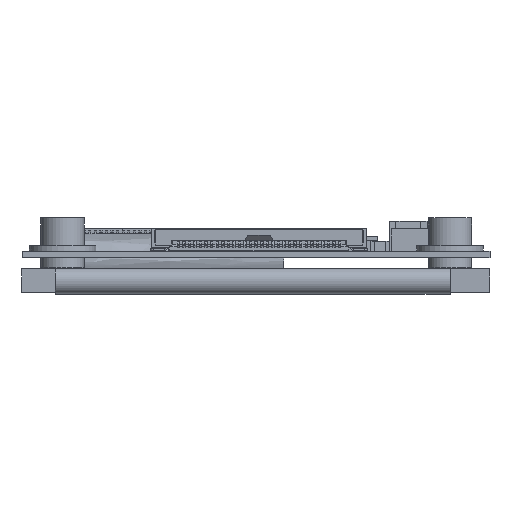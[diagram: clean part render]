
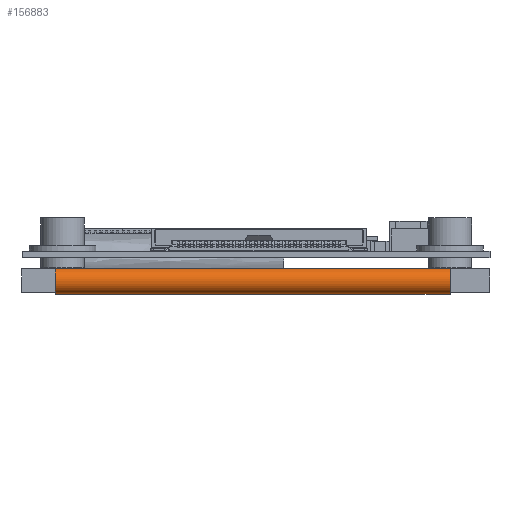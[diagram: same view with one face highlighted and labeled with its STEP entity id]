
A CAD part, front view. The second image highlights one B-rep face of the part: STEP entity #156883.
In plain terms, the highlighted cylindrical face has radius 1.15 mm (diameter 2.3 mm), a partial arc.
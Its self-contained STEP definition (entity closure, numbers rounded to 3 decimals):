
#8848 = ORIENTED_EDGE ( 'NONE', *, *, #31695, .F. ) ;
#18211 = LINE ( 'NONE', #96941, #56747 ) ;
#18982 = ORIENTED_EDGE ( 'NONE', *, *, #160203, .T. ) ;
#22272 = CARTESIAN_POINT ( 'NONE',  ( -11.892, 8.177, 44.814 ) ) ;
#31443 = CARTESIAN_POINT ( 'NONE',  ( 23.558, 8.177, 43.664 ) ) ;
#31695 = EDGE_CURVE ( 'NONE', #83206, #88908, #80534, .T. ) ;
#52945 = DIRECTION ( 'NONE',  ( 1., 0., 0. ) ) ;
#56747 = VECTOR ( 'NONE', #116541, 1000. ) ;
#57820 = AXIS2_PLACEMENT_3D ( 'NONE', #22272, #52945, #85716 ) ;
#59819 = EDGE_CURVE ( 'NONE', #100338, #83206, #135904, .T. ) ;
#62197 = EDGE_CURVE ( 'NONE', #160314, #88908, #140399, .T. ) ;
#76540 = EDGE_LOOP ( 'NONE', ( #95230, #8848, #86825, #18982 ) ) ;
#80534 = LINE ( 'NONE', #82670, #198724 ) ;
#82670 = CARTESIAN_POINT ( 'NONE',  ( -11.892, 8.177, 45.964 ) ) ;
#83206 = VERTEX_POINT ( 'NONE', #120203 ) ;
#85716 = DIRECTION ( 'NONE',  ( 0., 1., 0. ) ) ;
#86825 = ORIENTED_EDGE ( 'NONE', *, *, #59819, .F. ) ;
#88908 = VERTEX_POINT ( 'NONE', #90078 ) ;
#90078 = CARTESIAN_POINT ( 'NONE',  ( 23.558, 8.177, 45.964 ) ) ;
#94183 = AXIS2_PLACEMENT_3D ( 'NONE', #95791, #143823, #113220 ) ;
#95230 = ORIENTED_EDGE ( 'NONE', *, *, #62197, .T. ) ;
#95791 = CARTESIAN_POINT ( 'NONE',  ( -11.892, 8.177, 44.814 ) ) ;
#96012 = DIRECTION ( 'NONE',  ( 0., -1., 0. ) ) ;
#96941 = CARTESIAN_POINT ( 'NONE',  ( -11.892, 8.177, 43.664 ) ) ;
#97066 = DIRECTION ( 'NONE',  ( -1., 0., 0. ) ) ;
#100338 = VERTEX_POINT ( 'NONE', #203584 ) ;
#105286 = CYLINDRICAL_SURFACE ( 'NONE', #57820, 1.15 ) ;
#113220 = DIRECTION ( 'NONE',  ( 0., -1., 0. ) ) ;
#116541 = DIRECTION ( 'NONE',  ( 1., 0., 0. ) ) ;
#120203 = CARTESIAN_POINT ( 'NONE',  ( -11.892, 8.177, 45.964 ) ) ;
#132851 = DIRECTION ( 'NONE',  ( 1., 0., 0. ) ) ;
#135904 = CIRCLE ( 'NONE', #94183, 1.15 ) ;
#140399 = CIRCLE ( 'NONE', #213339, 1.15 ) ;
#142071 = FACE_OUTER_BOUND ( 'NONE', #76540, .T. ) ;
#143823 = DIRECTION ( 'NONE',  ( -1., 0., 0. ) ) ;
#156883 = ADVANCED_FACE ( 'NONE', ( #142071 ), #105286, .T. ) ;
#160203 = EDGE_CURVE ( 'NONE', #100338, #160314, #18211, .T. ) ;
#160314 = VERTEX_POINT ( 'NONE', #31443 ) ;
#193069 = CARTESIAN_POINT ( 'NONE',  ( 23.558, 8.177, 44.814 ) ) ;
#198724 = VECTOR ( 'NONE', #132851, 1000. ) ;
#203584 = CARTESIAN_POINT ( 'NONE',  ( -11.892, 8.177, 43.664 ) ) ;
#213339 = AXIS2_PLACEMENT_3D ( 'NONE', #193069, #97066, #96012 ) ;
